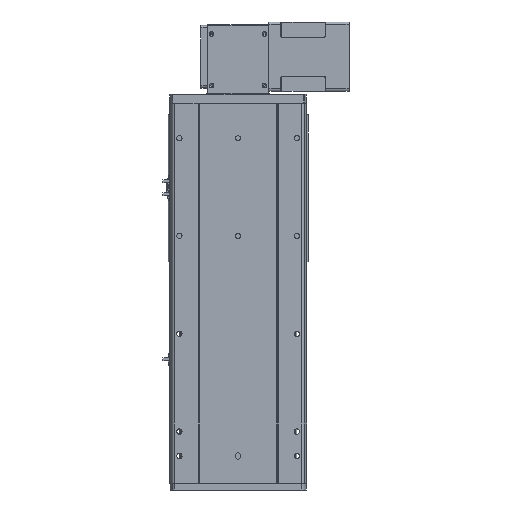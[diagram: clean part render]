
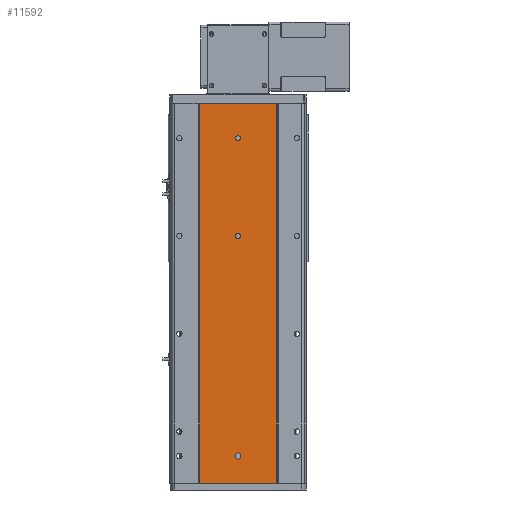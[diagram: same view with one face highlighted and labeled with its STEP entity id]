
A CAD part, front view. The second image highlights one B-rep face of the part: STEP entity #11592.
In plain terms, the highlighted planar face has unit normal (0, -1, 0).
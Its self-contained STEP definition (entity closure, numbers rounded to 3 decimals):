
#19 = CARTESIAN_POINT ( 'NONE',  ( 0., 1.5, -723. ) ) ;
#211 = DIRECTION ( 'NONE',  ( 0., 1., 0. ) ) ;
#982 = DIRECTION ( 'NONE',  ( 1., 0., 0. ) ) ;
#1134 = ORIENTED_EDGE ( 'NONE', *, *, #10445, .T. ) ;
#1536 = VERTEX_POINT ( 'NONE', #23756 ) ;
#1849 = ORIENTED_EDGE ( 'NONE', *, *, #21546, .T. ) ;
#2123 = CARTESIAN_POINT ( 'NONE',  ( 5., 1.5, -777. ) ) ;
#2248 = ORIENTED_EDGE ( 'NONE', *, *, #13600, .T. ) ;
#2283 = CARTESIAN_POINT ( 'NONE',  ( -79., 1.5, -777. ) ) ;
#2379 = LINE ( 'NONE', #9724, #20564 ) ;
#2625 = ORIENTED_EDGE ( 'NONE', *, *, #7219, .T. ) ;
#2857 = VECTOR ( 'NONE', #29304, 1000. ) ;
#3348 = DIRECTION ( 'NONE',  ( 0., 0., 1. ) ) ;
#3977 = LINE ( 'NONE', #19790, #9686 ) ;
#4144 = CARTESIAN_POINT ( 'NONE',  ( 0., 1.5, -66.5 ) ) ;
#4200 = EDGE_CURVE ( 'NONE', #25945, #15089, #11978, .T. ) ;
#4526 = CARTESIAN_POINT ( 'NONE',  ( 0., 1.5, -276.5 ) ) ;
#4616 = EDGE_CURVE ( 'NONE', #16487, #10307, #16256, .T. ) ;
#5241 = VERTEX_POINT ( 'NONE', #29447 ) ;
#5253 = FACE_BOUND ( 'NONE', #15669, .T. ) ;
#5870 = CARTESIAN_POINT ( 'NONE',  ( -79., 1.5, -777. ) ) ;
#6103 = AXIS2_PLACEMENT_3D ( 'NONE', #18108, #24641, #20442 ) ;
#6139 = ORIENTED_EDGE ( 'NONE', *, *, #6358, .T. ) ;
#6222 = AXIS2_PLACEMENT_3D ( 'NONE', #26147, #28445, #14793 ) ;
#6358 = EDGE_CURVE ( 'NONE', #28976, #8684, #22541, .T. ) ;
#6639 = VERTEX_POINT ( 'NONE', #12198 ) ;
#7011 = DIRECTION ( 'NONE',  ( 1., 0., 0. ) ) ;
#7037 = CARTESIAN_POINT ( 'NONE',  ( -79., 1.5, 0. ) ) ;
#7219 = EDGE_CURVE ( 'NONE', #10307, #28976, #2379, .T. ) ;
#8684 = VERTEX_POINT ( 'NONE', #13411 ) ;
#8913 = LINE ( 'NONE', #2123, #2857 ) ;
#9066 = EDGE_CURVE ( 'NONE', #8684, #6639, #8913, .T. ) ;
#9133 = DIRECTION ( 'NONE',  ( 1., 0., 0. ) ) ;
#9351 = CARTESIAN_POINT ( 'NONE',  ( 0., 1.5, -71.5 ) ) ;
#9361 = ORIENTED_EDGE ( 'NONE', *, *, #19291, .T. ) ;
#9686 = VECTOR ( 'NONE', #26475, 1000. ) ;
#9724 = CARTESIAN_POINT ( 'NONE',  ( -5., 1.5, -777. ) ) ;
#9778 = CARTESIAN_POINT ( 'NONE',  ( 0., 1.5, -728. ) ) ;
#9801 = AXIS2_PLACEMENT_3D ( 'NONE', #14604, #21489, #982 ) ;
#10307 = VERTEX_POINT ( 'NONE', #13630 ) ;
#10445 = EDGE_CURVE ( 'NONE', #14777, #17572, #28032, .T. ) ;
#10847 = AXIS2_PLACEMENT_3D ( 'NONE', #5870, #22026, #24258 ) ;
#10851 = CARTESIAN_POINT ( 'NONE',  ( -79., 1.5, -777. ) ) ;
#11314 = FACE_BOUND ( 'NONE', #29562, .T. ) ;
#11389 = ORIENTED_EDGE ( 'NONE', *, *, #11819, .F. ) ;
#11592 = ADVANCED_FACE ( 'NONE', ( #11314, #21320, #5253, #28832 ), #24155, .T. ) ;
#11703 = DIRECTION ( 'NONE',  ( 1., 0., 0. ) ) ;
#11819 = EDGE_CURVE ( 'NONE', #5241, #18201, #27695, .T. ) ;
#11870 = CARTESIAN_POINT ( 'NONE',  ( -79., 1.5, -777. ) ) ;
#11969 = VECTOR ( 'NONE', #16473, 1000. ) ;
#11978 = LINE ( 'NONE', #2283, #18050 ) ;
#12198 = CARTESIAN_POINT ( 'NONE',  ( 5., 1.5, -723. ) ) ;
#13339 = ORIENTED_EDGE ( 'NONE', *, *, #9066, .T. ) ;
#13411 = CARTESIAN_POINT ( 'NONE',  ( 5., 1.5, -720. ) ) ;
#13600 = EDGE_CURVE ( 'NONE', #1536, #28911, #17851, .T. ) ;
#13630 = CARTESIAN_POINT ( 'NONE',  ( -5., 1.5, -723. ) ) ;
#13836 = CARTESIAN_POINT ( 'NONE',  ( 0., 1.5, -723. ) ) ;
#13946 = ORIENTED_EDGE ( 'NONE', *, *, #4200, .T. ) ;
#14604 = CARTESIAN_POINT ( 'NONE',  ( 0., 1.5, -271.5 ) ) ;
#14768 = CIRCLE ( 'NONE', #21501, 5. ) ;
#14777 = VERTEX_POINT ( 'NONE', #4144 ) ;
#14793 = DIRECTION ( 'NONE',  ( 1., 0., 0. ) ) ;
#15089 = VERTEX_POINT ( 'NONE', #25943 ) ;
#15669 = EDGE_LOOP ( 'NONE', ( #21430, #2248 ) ) ;
#15912 = DIRECTION ( 'NONE',  ( 0., 1., 0. ) ) ;
#15925 = DIRECTION ( 'NONE',  ( 1., 0., 0. ) ) ;
#15930 = DIRECTION ( 'NONE',  ( 0., 1., 0. ) ) ;
#15960 = AXIS2_PLACEMENT_3D ( 'NONE', #9351, #21099, #27677 ) ;
#16256 = CIRCLE ( 'NONE', #18447, 5. ) ;
#16473 = DIRECTION ( 'NONE',  ( 0., 0., 1. ) ) ;
#16487 = VERTEX_POINT ( 'NONE', #9778 ) ;
#17101 = ORIENTED_EDGE ( 'NONE', *, *, #4616, .T. ) ;
#17572 = VERTEX_POINT ( 'NONE', #29471 ) ;
#17851 = CIRCLE ( 'NONE', #6222, 5. ) ;
#17910 = EDGE_CURVE ( 'NONE', #28911, #1536, #26289, .T. ) ;
#18043 = LINE ( 'NONE', #11870, #11969 ) ;
#18050 = VECTOR ( 'NONE', #7011, 1000. ) ;
#18108 = CARTESIAN_POINT ( 'NONE',  ( 0., 1.5, -720. ) ) ;
#18189 = CARTESIAN_POINT ( 'NONE',  ( 0., 1.5, -71.5 ) ) ;
#18201 = VERTEX_POINT ( 'NONE', #20776 ) ;
#18447 = AXIS2_PLACEMENT_3D ( 'NONE', #13836, #15930, #11703 ) ;
#19291 = EDGE_CURVE ( 'NONE', #17572, #14777, #14768, .T. ) ;
#19790 = CARTESIAN_POINT ( 'NONE',  ( 79., 1.5, -777. ) ) ;
#20442 = DIRECTION ( 'NONE',  ( 1., 0., 0. ) ) ;
#20550 = DIRECTION ( 'NONE',  ( 1., 0., 0. ) ) ;
#20564 = VECTOR ( 'NONE', #3348, 1000. ) ;
#20653 = EDGE_CURVE ( 'NONE', #15089, #18201, #3977, .T. ) ;
#20776 = CARTESIAN_POINT ( 'NONE',  ( 79., 1.5, 0. ) ) ;
#21099 = DIRECTION ( 'NONE',  ( 0., 1., 0. ) ) ;
#21320 = FACE_OUTER_BOUND ( 'NONE', #25522, .T. ) ;
#21430 = ORIENTED_EDGE ( 'NONE', *, *, #17910, .T. ) ;
#21489 = DIRECTION ( 'NONE',  ( 0., 1., 0. ) ) ;
#21501 = AXIS2_PLACEMENT_3D ( 'NONE', #18189, #15912, #9133 ) ;
#21546 = EDGE_CURVE ( 'NONE', #6639, #16487, #23899, .T. ) ;
#21760 = AXIS2_PLACEMENT_3D ( 'NONE', #19, #211, #20550 ) ;
#22026 = DIRECTION ( 'NONE',  ( 0., -1., 0. ) ) ;
#22541 = CIRCLE ( 'NONE', #6103, 5. ) ;
#22591 = ORIENTED_EDGE ( 'NONE', *, *, #20653, .T. ) ;
#22906 = ORIENTED_EDGE ( 'NONE', *, *, #25220, .F. ) ;
#23756 = CARTESIAN_POINT ( 'NONE',  ( 0., 1.5, -266.5 ) ) ;
#23899 = CIRCLE ( 'NONE', #21760, 5. ) ;
#24155 = PLANE ( 'NONE',  #10847 ) ;
#24258 = DIRECTION ( 'NONE',  ( 1., 0., 0. ) ) ;
#24641 = DIRECTION ( 'NONE',  ( 0., 1., 0. ) ) ;
#25220 = EDGE_CURVE ( 'NONE', #25945, #5241, #18043, .T. ) ;
#25522 = EDGE_LOOP ( 'NONE', ( #11389, #22906, #13946, #22591 ) ) ;
#25940 = CARTESIAN_POINT ( 'NONE',  ( -5., 1.5, -720. ) ) ;
#25943 = CARTESIAN_POINT ( 'NONE',  ( 79., 1.5, -777. ) ) ;
#25945 = VERTEX_POINT ( 'NONE', #10851 ) ;
#26147 = CARTESIAN_POINT ( 'NONE',  ( 0., 1.5, -271.5 ) ) ;
#26289 = CIRCLE ( 'NONE', #9801, 5. ) ;
#26475 = DIRECTION ( 'NONE',  ( 0., 0., 1. ) ) ;
#27079 = EDGE_LOOP ( 'NONE', ( #2625, #6139, #13339, #1849, #17101 ) ) ;
#27329 = VECTOR ( 'NONE', #15925, 1000. ) ;
#27677 = DIRECTION ( 'NONE',  ( 1., 0., 0. ) ) ;
#27695 = LINE ( 'NONE', #7037, #27329 ) ;
#28032 = CIRCLE ( 'NONE', #15960, 5. ) ;
#28445 = DIRECTION ( 'NONE',  ( 0., 1., 0. ) ) ;
#28832 = FACE_BOUND ( 'NONE', #27079, .T. ) ;
#28911 = VERTEX_POINT ( 'NONE', #4526 ) ;
#28976 = VERTEX_POINT ( 'NONE', #25940 ) ;
#29304 = DIRECTION ( 'NONE',  ( 0., 0., -1. ) ) ;
#29447 = CARTESIAN_POINT ( 'NONE',  ( -79., 1.5, 0. ) ) ;
#29471 = CARTESIAN_POINT ( 'NONE',  ( 0., 1.5, -76.5 ) ) ;
#29562 = EDGE_LOOP ( 'NONE', ( #9361, #1134 ) ) ;
